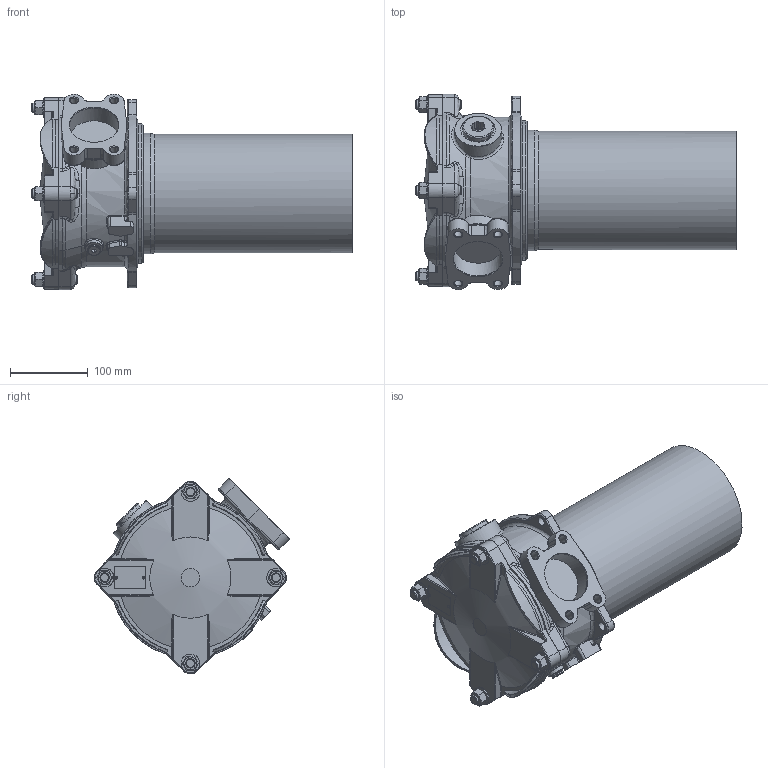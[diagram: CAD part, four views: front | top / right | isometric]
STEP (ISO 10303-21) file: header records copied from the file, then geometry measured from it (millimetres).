
FILE_DESCRIPTION((''),'2;1');
FILE_NAME('U:\Users\t.schleuter\Ruecklauffilter14197800(237436).stp','2013-04-12T15:29:33',('User'),('SDRC'),'I-DEAS Master Series 9','UNIX','Yes');
FILE_SCHEMA(('AUTOMOTIVE_DESIGN { 1 0 10303 214 1 1 1 1 }'));
Length unit declared in the file: millimetre
Products named in the file (1): 14197800(237436)
Bounding box: 411.3 x 250.74 x 250.75 mm (x, y, z)
Volume: 8674448 mm3; surface area: 357389.3 mm2
Topology: 1 solids, 13 shells, 847 faces, 2037 edges, 1245 vertices
Faces by surface type: bspline 847
Entity records: 35171 total; most frequent: CARTESIAN_POINT 23620, ORIENTED_EDGE 4046, EDGE_CURVE 2023, VERTEX_POINT 1245, B_SPLINE_CURVE_WITH_KNOTS 933, EDGE_LOOP 922, FACE_OUTER_BOUND 847, ADVANCED_FACE 847
